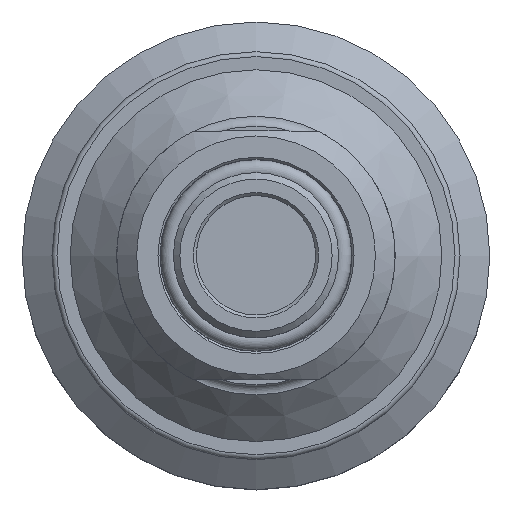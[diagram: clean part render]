
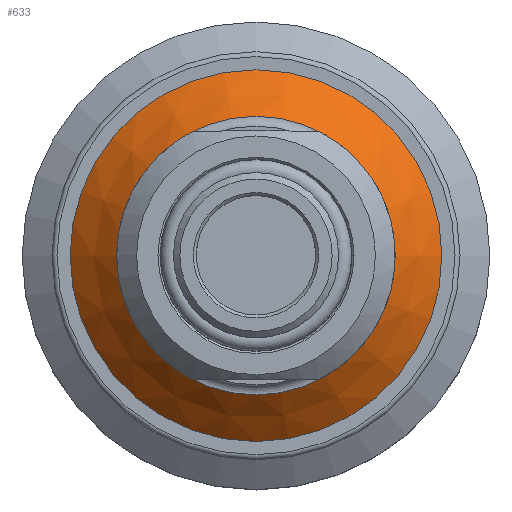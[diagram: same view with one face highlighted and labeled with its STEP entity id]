
A CAD part, top view. The second image highlights one B-rep face of the part: STEP entity #633.
In plain terms, the highlighted conical face has half-angle 45.485 degrees and reference radius 18.678 mm.
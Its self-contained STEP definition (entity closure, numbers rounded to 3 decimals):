
#633 = ADVANCED_FACE( '', ( #1568, #1569 ), #1570, .T. );
#1568 = FACE_BOUND( '', #2929, .T. );
#1569 = FACE_OUTER_BOUND( '', #2930, .T. );
#1570 = CONICAL_SURFACE( '', #2931, 18.679, 0.794 );
#2929 = EDGE_LOOP( '', ( #4930 ) );
#2930 = EDGE_LOOP( '', ( #4931 ) );
#2931 = AXIS2_PLACEMENT_3D( '', #4932, #4933, #4934 );
#4930 = ORIENTED_EDGE( '', *, *, #9321, .T. );
#4931 = ORIENTED_EDGE( '', *, *, #9320, .F. );
#4932 = CARTESIAN_POINT( '', ( 0., 0., 5.928 ) );
#4933 = DIRECTION( '', ( 0., 0., -1. ) );
#4934 = DIRECTION( '', ( -1., 0., 0. ) );
#9320 = EDGE_CURVE( '', #11169, #11169, #11170, .T. );
#9321 = EDGE_CURVE( '', #11171, #11171, #11172, .T. );
#11169 = VERTEX_POINT( '', #14871 );
#11170 = CIRCLE( '', #14872, 18.679 );
#11171 = VERTEX_POINT( '', #14873 );
#11172 = CIRCLE( '', #14874, 14. );
#14871 = CARTESIAN_POINT( '', ( -18.679, 0., 5.928 ) );
#14872 = AXIS2_PLACEMENT_3D( '', #18596, #18597, #18598 );
#14873 = CARTESIAN_POINT( '', ( -14., 0., 10.528 ) );
#14874 = AXIS2_PLACEMENT_3D( '', #18599, #18600, #18601 );
#18596 = CARTESIAN_POINT( '', ( 0., 0., 5.928 ) );
#18597 = DIRECTION( '', ( 0., 0., -1. ) );
#18598 = DIRECTION( '', ( -1., 0., 0. ) );
#18599 = CARTESIAN_POINT( '', ( 0., 0., 10.528 ) );
#18600 = DIRECTION( '', ( 0., 0., -1. ) );
#18601 = DIRECTION( '', ( -1., 0., 0. ) );
